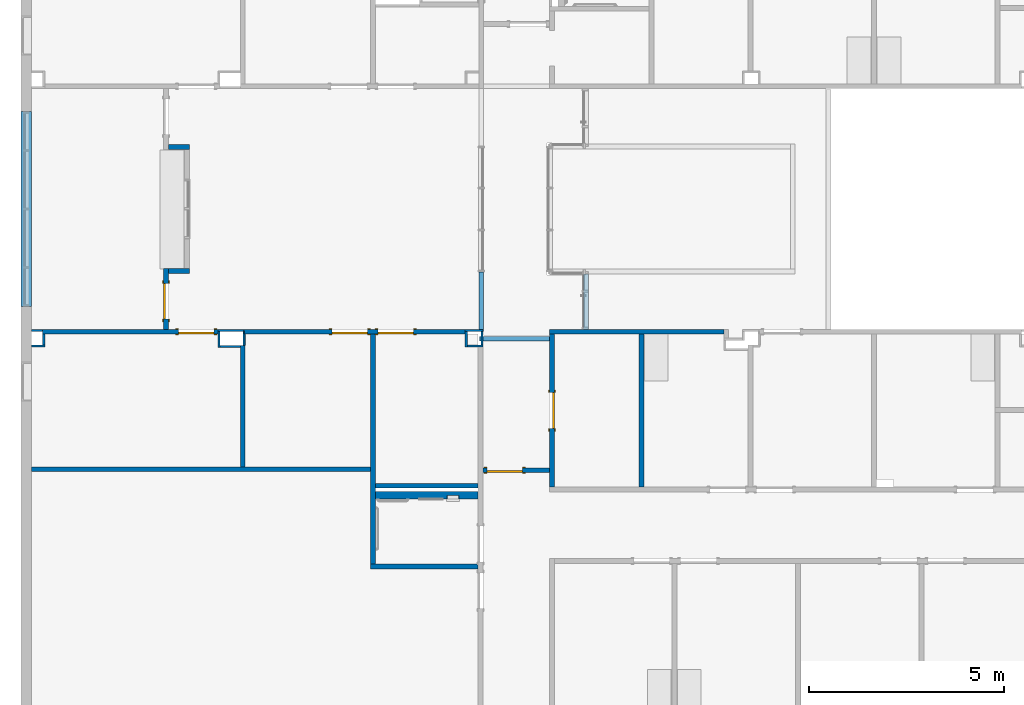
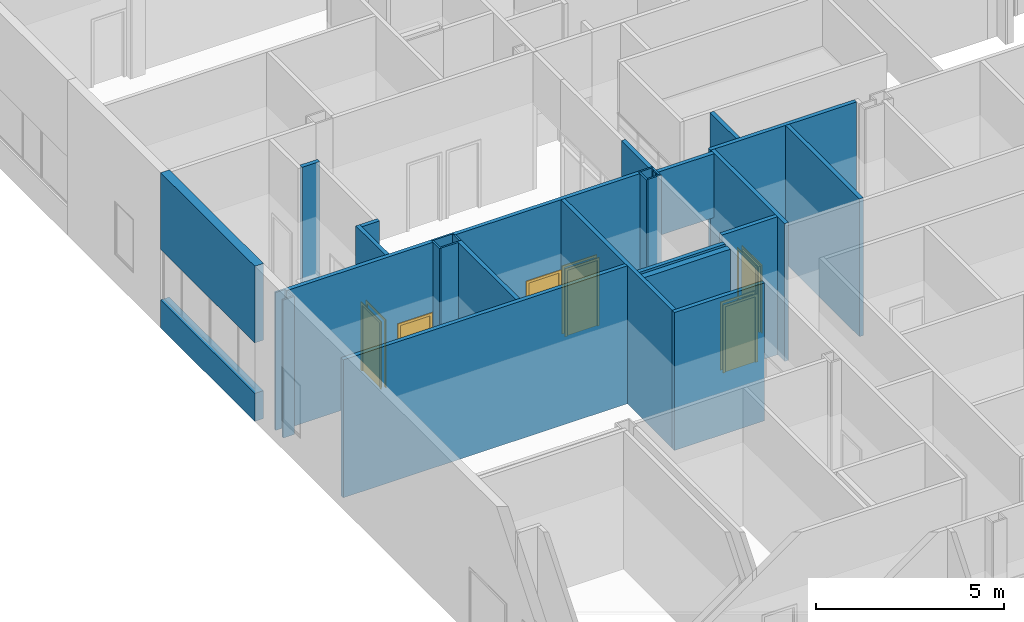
# One storey, part 26 of 87: 31 walls, 6 doors, 7 openings.
"""IFC2X3 building model written with IfcOpenShell, lengths in metres."""

from ifc_helpers import new_model, entity, si_unit, converted_unit, frame, frame_2d, origin, origin_2d_with_axis, place, context, project, spatial, polyline, rectangle, outline, extrude, source, transform, mapped, material, layer, layer_set, layer_usage, type_object, type_shapes, element, fill, save


model = new_model("IFC2X3")

# Units and contexts
model_context = context("Model", 3, precision=1e-09, world=origin())
plan_context = context("Plan", 3, precision=1e-09, world=origin())
ifc_project = project(units=[si_unit("LENGTHUNIT", "METRE"), si_unit("AREAUNIT", "SQUARE_METRE"), si_unit("VOLUMEUNIT", "CUBIC_METRE"), converted_unit("PLANEANGLEUNIT", "DEGREE", entity("IfcRatioMeasure", 0.01745329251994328), si_unit("PLANEANGLEUNIT", "RADIAN"), dimensions=[0, 0, 0, 0, 0, 0, 0]), si_unit("TIMEUNIT", "SECOND")], contexts=[model_context, plan_context])

# Site, building, storey
site_placement = place(None, origin())
site = spatial("IfcSite", under=ifc_project, at=site_placement, Name="Default", CompositionType="ELEMENT")
building_placement = place(site_placement, origin())
building = spatial("IfcBuilding", under=site, at=building_placement, CompositionType="ELEMENT")
storey_placement = place(building_placement, origin())
storey = spatial("IfcBuildingStorey", under=building, at=storey_placement, Name="First Floor", CompositionType="ELEMENT", Elevation=-3.531500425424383e-13)

# Wall, opening, door
ifc_material_1 = material(Name="Plasterboard")
ifc_layer_1 = layer(ifc_material_1, 0.016)
ifc_material_2 = material(Name="Metal - Stud Layer")
ifc_layer_2 = layer(ifc_material_2, 0.092)
ifc_layer_3 = layer(ifc_material_1, 0.016)
ifc_layer_set_1 = layer_set([ifc_layer_1, ifc_layer_2, ifc_layer_3], Name="Basic Wall:Interior - Partition (92mm Stud)")
ifc_layer_usage_1 = layer_usage(ifc_layer_set_1, "AXIS2", "NEGATIVE", 0.062)
wall_1_placement = place(storey_placement, frame((-48.56300000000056, 28.6099999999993, 0.0), z_axis=(0.0, 0.0, 1.0), x_axis=(0.0, 1.0, 0.0)))
wall_1 = element("IfcWallStandardCase", 1, at=wall_1_placement, inside=storey, material=ifc_layer_usage_1, Name="Basic Wall:Interior - Partition (92mm Stud)", ObjectType="Basic Wall:Interior - Partition (92mm Stud)", context=model_context, shape_type="SweptSolid", body=[
    extrude(rectangle(XDim=1.559999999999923, YDim=0.1240000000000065, at=frame_2d((0.7799999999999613, 0.0), x_axis=(-1.0, 0.0))), origin(), (0.0, 0.0, 1.0), 4.46800000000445),
])
opening_1_placement = place(wall_1_placement, frame((0.2604999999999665, -0.06200000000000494, 0.0)))
opening_1 = element("IfcOpeningElement", 2, at=opening_1_placement, cuts=wall_1, Name="M_Single-Flush:0915 x 2134mm:0915 x 2134mm:1", ObjectType="Opening", context=model_context, shape_type="SweptSolid", body=[
    extrude(rectangle(XDim=0.9149999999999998, YDim=2.134, at=frame_2d((1.067, 0.4575000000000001), x_axis=(0.0, -1.0))), frame((0.0, 0.0, 0.0), z_axis=(0.0, 1.0, 0.0), x_axis=(0.0, 0.0, 1.0)), (0.0, 0.0, 1.0), 0.124),
])
door_style_1 = type_object("IfcDoorStyle", Name="0915 x 2134mm", ConstructionType="NOTDEFINED", OperationType="SINGLE_SWING_LEFT", ParameterTakesPrecedence=False, Sizeable=False)
shared_shape_1 = source(origin(), model_context, "Body", "SweptSolid", [
    extrude(outline(polyline([(-0.5335, -1.123999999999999), (0.5334999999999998, -1.123999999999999), (0.5334999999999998, 1.086), (0.4574999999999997, 1.086), (0.4574999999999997, -1.048000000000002), (-0.4574999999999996, -1.048000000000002), (-0.4574999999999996, 1.086), (-0.5335, 1.086), (-0.5335, -1.123999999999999)])), frame((0.4575000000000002, 0.1489999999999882, 1.086), z_axis=(0.0, -1.0, 0.0), x_axis=(-1.0, 0.0, 0.0)), (0.0, 0.0, 1.0), 0.02499999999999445),
    extrude(outline(polyline([(-1.123999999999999, -0.5334999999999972), (1.085999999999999, -0.5334999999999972), (1.085999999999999, -0.4575000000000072), (-1.048, -0.4575000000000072), (-1.048, 0.4575000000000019), (1.085999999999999, 0.4575000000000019), (1.085999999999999, 0.5335000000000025), (-1.123999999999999, 0.5335000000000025), (-1.123999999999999, -0.5334999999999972)])), frame((0.4574999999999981, 0.0, 1.085999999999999), z_axis=(0.0, -1.0, 0.0), x_axis=(0.0, 0.0, -1.0)), (0.0, 0.0, 1.0), 0.02500000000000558),
    extrude(rectangle(XDim=0.9149999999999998, YDim=0.051, at=origin_2d_with_axis()), frame((0.4575000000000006, 0.09849999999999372, 0.0)), (0.0, 0.0, 1.0), 2.133999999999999),
])
type_shapes(door_style_1, [shared_shape_1])
door_1_placement = place(opening_1_placement, origin())
door_1 = element("IfcDoor", 3, at=door_1_placement, inside=storey, type_object=door_style_1, Name="M_Single-Flush:0915 x 2134mm:0915 x 2134mm", ObjectType="0915 x 2134mm", OverallHeight=2.134, OverallWidth=0.9149999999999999, context=model_context, shape_type="MappedRepresentation", body=[
    mapped(shared_shape_1, transform((0.0, 0.0, 0.0), scale=1.0)),
])
fill(opening_1, door_1)

# Walls
ifc_layer_usage_2 = layer_usage(ifc_layer_set_1, "AXIS2", "NEGATIVE", 0.062)
wall_2_placement = place(storey_placement, frame((-48.50100000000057, 30.10799999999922, 0.0)))
element("IfcWallStandardCase", 4, at=wall_2_placement, inside=storey, material=ifc_layer_usage_2, Name="Basic Wall:Interior - Partition (92mm Stud)", ObjectType="Basic Wall:Interior - Partition (92mm Stud)", context=model_context, shape_type="SweptSolid", body=[
    extrude(rectangle(XDim=0.54000013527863, YDim=0.1239999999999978, at=frame_2d((0.270000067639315, 0.0), x_axis=(-1.0, 0.0))), origin(), (0.0, 0.0, 1.0), 4.46800000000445),
])
ifc_layer_usage_3 = layer_usage(ifc_layer_set_1, "AXIS2", "NEGATIVE", 0.062)
wall_3_placement = place(storey_placement, frame((-47.96099986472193, 33.28199999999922, 0.0), z_axis=(0.0, 0.0, 1.0), x_axis=(-1.0, 0.0, 0.0)))
element("IfcWallStandardCase", 5, at=wall_3_placement, inside=storey, material=ifc_layer_usage_3, Name="Basic Wall:Interior - Partition (92mm Stud)", ObjectType="Basic Wall:Interior - Partition (92mm Stud)", context=model_context, shape_type="SweptSolid", body=[
    extrude(rectangle(XDim=0.5400001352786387, YDim=0.1239999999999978, at=frame_2d((0.2700000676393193, 0.0), x_axis=(-1.0, 0.0))), origin(), (0.0, 0.0, 1.0), 4.46800000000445),
])

# Wall, opening, door
ifc_layer_usage_4 = layer_usage(ifc_layer_set_1, "AXIS2", "NEGATIVE", 0.062)
wall_4_placement = place(storey_placement, frame((-51.72400000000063, 28.54799999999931, 0.0)))
wall_4 = element("IfcWallStandardCase", 6, at=wall_4_placement, inside=storey, material=ifc_layer_usage_4, Name="Basic Wall:Interior - Partition (92mm Stud)", ObjectType="Basic Wall:Interior - Partition (92mm Stud)", context=model_context, shape_type="SweptSolid", body=[
    extrude(rectangle(XDim=4.494000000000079, YDim=0.1239999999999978, at=frame_2d((2.247000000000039, 0.0), x_axis=(-1.0, 0.0))), origin(), (0.0, 0.0, 1.0), 4.46800000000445),
])
opening_2_placement = place(wall_4_placement, frame((4.394000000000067, 0.06199999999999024, 0.0)))
opening_2 = element("IfcOpeningElement", 7, at=opening_2_placement, cuts=wall_4, Name="M_Single-Flush:0915 x 2134mm:0915 x 2134mm:1", ObjectType="Opening", context=model_context, shape_type="SweptSolid", body=[
    extrude(rectangle(XDim=0.9149999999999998, YDim=2.134, at=frame_2d((1.067, 0.4574999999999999), x_axis=(0.0, -1.0))), frame((0.0, 0.0, 0.0), z_axis=(0.0, -1.0, 0.0), x_axis=(0.0, 0.0, 1.0)), (0.0, 0.0, 1.0), 0.124),
])
door_2_placement = place(opening_2_placement, frame((0.0, 0.0, 0.0), z_axis=(0.0, 0.0, 1.0), x_axis=(-1.0, 0.0, 0.0)))
door_2 = element("IfcDoor", 8, at=door_2_placement, inside=storey, type_object=door_style_1, Name="M_Single-Flush:0915 x 2134mm:0915 x 2134mm", ObjectType="0915 x 2134mm", OverallHeight=2.134, OverallWidth=0.9149999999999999, context=model_context, shape_type="MappedRepresentation", body=[
    mapped(shared_shape_1, transform((0.0, 0.0, 0.0), scale=1.0)),
])
fill(opening_2, door_2)

# Walls
ifc_layer_usage_5 = layer_usage(ifc_layer_set_1, "AXIS2", "NEGATIVE", 0.062)
wall_5_placement = place(storey_placement, frame((-43.31000000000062, 25.02199999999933, 0.0), z_axis=(0.0, 0.0, 1.0), x_axis=(-1.0, 0.0, 0.0)))
element("IfcWallStandardCase", 9, at=wall_5_placement, inside=storey, material=ifc_layer_usage_5, Name="Basic Wall:Interior - Partition (92mm Stud)", ObjectType="Basic Wall:Interior - Partition (92mm Stud)", context=model_context, shape_type="SweptSolid", body=[
    extrude(rectangle(XDim=8.703000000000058, YDim=0.1239999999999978, at=frame_2d((4.351500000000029, 0.0), x_axis=(-1.0, 0.0))), origin(), (0.0, 0.0, 1.0), 4.46800000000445),
])
ifc_layer_usage_6 = layer_usage(ifc_layer_set_1, "AXIS2", "NEGATIVE", 0.062)
wall_6_placement = place(storey_placement, frame((-46.59200000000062, 28.19599999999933, 0.0), z_axis=(0.0, 0.0, 1.0), x_axis=(0.0, -1.0, 0.0)))
element("IfcWallStandardCase", 10, at=wall_6_placement, inside=storey, material=ifc_layer_usage_6, Name="Basic Wall:Interior - Partition (92mm Stud)", ObjectType="Basic Wall:Interior - Partition (92mm Stud)", context=model_context, shape_type="SweptSolid", body=[
    extrude(rectangle(XDim=3.11199999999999, YDim=0.1240000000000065, at=frame_2d((1.555999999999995, 0.0), x_axis=(-1.0, 0.0))), origin(), (0.0, 0.0, 1.0), 4.468000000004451),
])
ifc_layer_usage_7 = layer_usage(ifc_layer_set_1, "AXIS2", "NEGATIVE", 0.062)
wall_7_placement = place(storey_placement, frame((-40.55400000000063, 22.52199999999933, 0.0), z_axis=(0.0, 0.0, 1.0), x_axis=(-1.0, 0.0, 0.0)))
element("IfcWallStandardCase", 11, at=wall_7_placement, inside=storey, material=ifc_layer_usage_7, Name="Basic Wall:Interior - Partition (92mm Stud)", ObjectType="Basic Wall:Interior - Partition (92mm Stud)", context=model_context, shape_type="SweptSolid", body=[
    extrude(rectangle(XDim=2.755999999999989, YDim=0.1239999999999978, at=frame_2d((1.377999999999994, 0.0), x_axis=(-1.0, 0.0))), origin(), (0.0, 0.0, 1.0), 4.468000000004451),
])
ifc_layer_usage_8 = layer_usage(ifc_layer_set_1, "AXIS2", "NEGATIVE", 0.062)
wall_8_placement = place(storey_placement, frame((-43.24800000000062, 22.58399999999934, 0.0), z_axis=(0.0, 0.0, 1.0), x_axis=(0.0, 1.0, 0.0)))
element("IfcWallStandardCase", 12, at=wall_8_placement, inside=storey, material=ifc_layer_usage_8, Name="Basic Wall:Interior - Partition (92mm Stud)", ObjectType="Basic Wall:Interior - Partition (92mm Stud)", context=model_context, shape_type="SweptSolid", body=[
    extrude(rectangle(XDim=5.901999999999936, YDim=0.1240000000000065, at=frame_2d((2.950999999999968, 0.0), x_axis=(-1.0, 0.0))), origin(), (0.0, 0.0, 1.0), 4.468000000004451),
])
ifc_layer_usage_9 = layer_usage(ifc_layer_set_1, "AXIS2", "NEGATIVE", 0.062)
wall_9_placement = place(storey_placement, frame((-43.18600000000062, 24.5979999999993, 0.0)))
element("IfcWallStandardCase", 13, at=wall_9_placement, inside=storey, material=ifc_layer_usage_9, Name="Basic Wall:Interior - Partition (92mm Stud)", ObjectType="Basic Wall:Interior - Partition (92mm Stud)", context=model_context, shape_type="SweptSolid", body=[
    extrude(rectangle(XDim=2.631999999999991, YDim=0.1239999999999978, at=frame_2d((1.315999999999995, 0.0), x_axis=(-1.0, 0.0))), origin(), (0.0, 0.0, 1.0), 4.46800000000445),
])

# Wall, opening
ifc_layer_4 = layer(ifc_material_1, 0.016)
ifc_layer_5 = layer(ifc_material_2, 0.152)
ifc_layer_6 = layer(ifc_material_1, 0.016)
ifc_layer_set_2 = layer_set([ifc_layer_4, ifc_layer_5, ifc_layer_6], Name="Basic Wall:Interior - Plumbing (152mm Stud)")
ifc_layer_usage_10 = layer_usage(ifc_layer_set_2, "AXIS2", "NEGATIVE", 0.092)
wall_10_placement = place(storey_placement, frame((-40.55400000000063, 24.3519999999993, 0.0), z_axis=(0.0, 0.0, 1.0), x_axis=(-1.0, 0.0, 0.0)))
wall_10 = element("IfcWallStandardCase", 14, at=wall_10_placement, inside=storey, material=ifc_layer_usage_10, Name="Basic Wall:Interior - Plumbing (152mm Stud)", ObjectType="Basic Wall:Interior - Plumbing (152mm Stud)", context=model_context, shape_type="SweptSolid", body=[
    extrude(rectangle(XDim=2.631999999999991, YDim=0.1840000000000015, at=frame_2d((1.315999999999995, 0.0), x_axis=(-1.0, 0.0))), origin(), (0.0, 0.0, 1.0), 4.46800000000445),
])
opening_3_placement = place(wall_10_placement, origin())
element("IfcOpeningElement", 15, at=opening_3_placement, cuts=wall_10, ObjectType="Opening", context=model_context, shape_type="SweptSolid", body=[
    extrude(rectangle(XDim=1.362075, YDim=0.2984499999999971, at=frame_2d((0.0, 0.0), x_axis=(0.0, 1.0))), frame((0.6450999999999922, 0.003099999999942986, 1.041399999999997), z_axis=(0.0, 1.0, 0.0), x_axis=(1.0, 0.0, 0.0)), (0.0, 0.0, 1.0), 0.1524000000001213),
])

# Wall
ifc_layer_usage_11 = layer_usage(ifc_layer_set_1, "AXIS2", "NEGATIVE", 0.062)
wall_11_placement = place(storey_placement, frame((-38.72000000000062, 28.54799999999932, 0.0)))
element("IfcWallStandardCase", 16, at=wall_11_placement, inside=storey, material=ifc_layer_usage_11, Name="Basic Wall:Interior - Partition (92mm Stud)", ObjectType="Basic Wall:Interior - Partition (92mm Stud)", context=model_context, shape_type="SweptSolid", body=[
    extrude(rectangle(XDim=4.465999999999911, YDim=0.1239999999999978, at=frame_2d((2.232999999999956, 0.0), x_axis=(-1.0, 0.0))), origin(), (0.0, 0.0, 1.0), 4.46800000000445),
])

# Wall, opening, door
ifc_layer_usage_12 = layer_usage(ifc_layer_set_1, "AXIS2", "NEGATIVE", 0.062)
wall_12_placement = place(storey_placement, frame((-38.65800000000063, 24.56399999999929, 0.0), z_axis=(0.0, 0.0, 1.0), x_axis=(0.0, 1.0, 0.0)))
wall_12 = element("IfcWallStandardCase", 17, at=wall_12_placement, inside=storey, material=ifc_layer_usage_12, Name="Basic Wall:Interior - Partition (92mm Stud)", ObjectType="Basic Wall:Interior - Partition (92mm Stud)", context=model_context, shape_type="SweptSolid", body=[
    extrude(rectangle(XDim=3.922000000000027, YDim=0.1239999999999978, at=frame_2d((1.961000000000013, 0.0), x_axis=(-1.0, 0.0))), origin(), (0.0, 0.0, 1.0), 4.46800000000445),
])
opening_4_placement = place(wall_12_placement, frame((2.418500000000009, 0.06199999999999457, 0.0)))
opening_4 = element("IfcOpeningElement", 18, at=opening_4_placement, cuts=wall_12, Name="M_Single-Flush:0915 x 2134mm:0915 x 2134mm:1", ObjectType="Opening", context=model_context, shape_type="SweptSolid", body=[
    extrude(rectangle(XDim=0.9149999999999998, YDim=2.134, at=frame_2d((1.067, 0.4575), x_axis=(0.0, 1.0))), frame((0.0, 0.0, 0.0), z_axis=(0.0, -1.0, 0.0), x_axis=(0.0, 0.0, 1.0)), (0.0, 0.0, 1.0), 0.124),
])
door_style_2 = type_object("IfcDoorStyle", Name="0915 x 2134mm", ConstructionType="NOTDEFINED", OperationType="SINGLE_SWING_RIGHT", ParameterTakesPrecedence=False, Sizeable=False)
shared_shape_2 = source(origin(), model_context, "Body", "SweptSolid", [
    extrude(outline(polyline([(-0.5335, -1.123999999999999), (0.5334999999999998, -1.123999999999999), (0.5334999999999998, 1.086), (0.4574999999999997, 1.086), (0.4574999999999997, -1.048000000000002), (-0.4574999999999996, -1.048000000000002), (-0.4574999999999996, 1.086), (-0.5335, 1.086), (-0.5335, -1.123999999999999)])), frame((0.4575000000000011, 0.1239999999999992, 1.086), z_axis=(0.0, 1.0, 0.0), x_axis=(1.0, 0.0, 0.0)), (0.0, 0.0, 1.0), 0.02499999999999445),
    extrude(outline(polyline([(-1.123999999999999, -0.5334999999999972), (1.085999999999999, -0.5334999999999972), (1.085999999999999, -0.4575000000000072), (-1.048, -0.4575000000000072), (-1.048, 0.4575000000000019), (1.085999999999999, 0.4575000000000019), (1.085999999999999, 0.5335000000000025), (-1.123999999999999, 0.5335000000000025), (-1.123999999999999, -0.5334999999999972)])), frame((0.4575000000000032, -0.02500000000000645, 1.085999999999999), z_axis=(0.0, 1.0, 0.0), x_axis=(0.0, 0.0, -1.0)), (0.0, 0.0, 1.0), 0.02500000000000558),
    extrude(rectangle(XDim=0.051, YDim=0.9149999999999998, at=origin_2d_with_axis()), frame((0.4575000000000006, 0.09849999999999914, 0.0), z_axis=(0.0, 0.0, 1.0), x_axis=(0.0, 1.0, 0.0)), (0.0, 0.0, 1.0), 2.133999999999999),
])
type_shapes(door_style_2, [shared_shape_2])
door_3_placement = place(opening_4_placement, frame((0.0, 0.0, 0.0), z_axis=(0.0, 0.0, 1.0), x_axis=(-1.0, 0.0, 0.0)))
door_3 = element("IfcDoor", 19, at=door_3_placement, inside=storey, type_object=door_style_2, Name="M_Single-Flush:0915 x 2134mm:0915 x 2134mm", ObjectType="0915 x 2134mm", OverallHeight=2.134, OverallWidth=0.9149999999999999, context=model_context, shape_type="MappedRepresentation", body=[
    mapped(shared_shape_2, transform((0.0, 0.0, 0.0), scale=1.0)),
])
fill(opening_4, door_3)

# Walls
ifc_layer_usage_13 = layer_usage(ifc_layer_set_1, "AXIS2", "NEGATIVE", 0.062)
wall_13_placement = place(storey_placement, frame((-36.36800000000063, 24.56399999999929, 0.0), z_axis=(0.0, 0.0, 1.0), x_axis=(0.0, 1.0, 0.0)))
element("IfcWallStandardCase", 20, at=wall_13_placement, inside=storey, material=ifc_layer_usage_13, Name="Basic Wall:Interior - Partition (92mm Stud)", ObjectType="Basic Wall:Interior - Partition (92mm Stud)", context=model_context, shape_type="SweptSolid", body=[
    extrude(rectangle(XDim=3.922000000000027, YDim=0.1239999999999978, at=frame_2d((1.961000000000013, 0.0), x_axis=(-1.0, 0.0))), origin(), (0.0, 0.0, 1.0), 4.46800000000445),
])
ifc_material_3 = material(Name="Insulation - Insulated Panel")
ifc_layer_7 = layer(ifc_material_3, 0.042)
ifc_material_4 = material(Name="Metal - Firring")
ifc_layer_8 = layer(ifc_material_4, 0.038)
ifc_material_5 = material(Name="Wood - Sheathing - plywood")
ifc_layer_9 = layer(ifc_material_5, 0.019)
ifc_layer_10 = layer(ifc_material_2, 0.152)
ifc_layer_11 = layer(ifc_material_1, 0.016)
ifc_layer_set_3 = layer_set([ifc_layer_7, ifc_layer_8, ifc_layer_9, ifc_layer_10, ifc_layer_11], Name="Basic Wall:Exterior - Insul Panel on Mtl. Stud")
ifc_layer_usage_14 = layer_usage(ifc_layer_set_3, "AXIS2", "NEGATIVE", 0.1335)
wall_14_placement = place(storey_placement, frame((-52.14650000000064, 29.19495592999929, 0.0), z_axis=(0.0, 0.0, 1.0), x_axis=(0.0, 1.0, 0.0)))
element("IfcWallStandardCase", 21, at=wall_14_placement, inside=storey, material=ifc_layer_usage_14, Name="Basic Wall:Exterior - Insul Panel on Mtl. Stud", ObjectType="Basic Wall:Exterior - Insul Panel on Mtl. Stud", context=model_context, shape_type="SweptSolid", body=[
    extrude(rectangle(XDim=4.999999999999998, YDim=0.2670000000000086, at=frame_2d((2.499999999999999, 0.0), x_axis=(-1.0, 0.0))), origin(), (0.0, 0.0, 1.0), 0.905),
])
ifc_layer_usage_15 = layer_usage(ifc_layer_set_3, "AXIS2", "NEGATIVE", 0.1335)
wall_15_placement = place(storey_placement, frame((-52.14650000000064, 29.19495592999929, 2.54), z_axis=(0.0, 0.0, 1.0), x_axis=(0.0, 1.0, 0.0)))
element("IfcWallStandardCase", 22, at=wall_15_placement, inside=storey, material=ifc_layer_usage_15, Name="Basic Wall:Exterior - Insul Panel on Mtl. Stud", ObjectType="Basic Wall:Exterior - Insul Panel on Mtl. Stud", context=model_context, shape_type="SweptSolid", body=[
    extrude(rectangle(XDim=4.999999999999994, YDim=0.2670000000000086, at=frame_2d((2.499999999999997, 0.0), x_axis=(-1.0, 0.0))), origin(), (0.0, 0.0, 1.0), 2.48700000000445),
])
ifc_layer_usage_16 = layer_usage(ifc_layer_set_1, "AXIS2", "NEGATIVE", 0.062)
wall_16_placement = place(storey_placement, frame((-38.72000000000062, 28.3655000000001, 2.4), z_axis=(0.0, 0.0, 1.0), x_axis=(-1.0, 0.0, 0.0)))
element("IfcWallStandardCase", 23, at=wall_16_placement, inside=storey, material=ifc_layer_usage_16, Name="Basic Wall:Interior - Partition (92mm Stud)", ObjectType="Basic Wall:Interior - Partition (92mm Stud)", context=model_context, shape_type="SweptSolid", body=[
    extrude(rectangle(XDim=1.799000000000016, YDim=0.1239999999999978, at=frame_2d((0.8995000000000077, 0.0), x_axis=(-1.0, 0.0))), origin(), (0.0, 0.0, 1.0), 2.06800000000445),
])
ifc_layer_usage_17 = layer_usage(ifc_layer_set_1, "AXIS2", "NEGATIVE", 0.062)
wall_17_placement = place(storey_placement, frame((-40.47500000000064, 30.07999999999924, 2.8), z_axis=(0.0, 0.0, 1.0), x_axis=(0.0, -1.0, 0.0)))
element("IfcWallStandardCase", 24, at=wall_17_placement, inside=storey, material=ifc_layer_usage_17, Name="Basic Wall:Interior - Partition (92mm Stud)", ObjectType="Basic Wall:Interior - Partition (92mm Stud)", context=model_context, shape_type="SweptSolid", body=[
    extrude(rectangle(XDim=1.523999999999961, YDim=0.1240000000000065, at=frame_2d((0.7619999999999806, 0.0), x_axis=(-1.0, 0.0))), origin(), (0.0, 0.0, 1.0), 1.650000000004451),
])
ifc_layer_usage_18 = layer_usage(ifc_layer_set_1, "AXIS2", "NEGATIVE", 0.062)
wall_18_placement = place(storey_placement, frame((-37.79200000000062, 30.03099999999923, 2.8), z_axis=(0.0, 0.0, 1.0), x_axis=(0.0, -1.0, 0.0)))
element("IfcWallStandardCase", 25, at=wall_18_placement, inside=storey, material=ifc_layer_usage_18, Name="Basic Wall:Interior - Partition (92mm Stud)", ObjectType="Basic Wall:Interior - Partition (92mm Stud)", context=model_context, shape_type="SweptSolid", body=[
    extrude(rectangle(XDim=1.420999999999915, YDim=0.1239999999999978, at=frame_2d((0.7104999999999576, 0.0), x_axis=(-1.0, 0.0))), origin(), (0.0, 0.0, 1.0), 1.650000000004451),
])
ifc_layer_12 = layer(ifc_material_2, 0.038)
ifc_layer_13 = layer(ifc_material_1, 0.016)
ifc_layer_set_4 = layer_set([ifc_layer_12, ifc_layer_13], Name="Basic Wall:Interior - Furring (38 mm Stud)")
ifc_layer_usage_19 = layer_usage(ifc_layer_set_4, "AXIS2", "NEGATIVE", 0.027)
wall_19_placement = place(storey_placement, frame((-40.43000000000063, 28.58299999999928, 0.0), z_axis=(0.0, 0.0, 1.0), x_axis=(-1.0, 0.0, 0.0)))
element("IfcWallStandardCase", 26, at=wall_19_placement, inside=storey, material=ifc_layer_usage_19, Name="Basic Wall:Interior - Furring (38 mm Stud)", ObjectType="Basic Wall:Interior - Furring (38 mm Stud)", context=model_context, shape_type="SweptSolid", body=[
    extrude(rectangle(XDim=0.4565000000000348, YDim=0.05400000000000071, at=frame_2d((0.2282500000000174, 0.0), x_axis=(-1.0, 0.0))), origin(), (0.0, 0.0, 1.0), 4.46800000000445),
])
ifc_layer_usage_20 = layer_usage(ifc_layer_set_4, "AXIS2", "NEGATIVE", 0.027)
wall_20_placement = place(storey_placement, frame((-40.85950000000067, 28.55599999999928, 0.0), z_axis=(0.0, 0.0, 1.0), x_axis=(0.0, -1.0, 0.0)))
element("IfcWallStandardCase", 27, at=wall_20_placement, inside=storey, material=ifc_layer_usage_20, Name="Basic Wall:Interior - Furring (38 mm Stud)", ObjectType="Basic Wall:Interior - Furring (38 mm Stud)", context=model_context, shape_type="SweptSolid", body=[
    extrude(rectangle(XDim=0.405999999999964, YDim=0.05400000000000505, at=frame_2d((0.202999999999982, 0.0), x_axis=(-1.0, 0.0))), origin(), (0.0, 0.0, 1.0), 4.46800000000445),
])
ifc_layer_usage_21 = layer_usage(ifc_layer_set_4, "AXIS2", "NEGATIVE", 0.027)
wall_21_placement = place(storey_placement, frame((-40.83250000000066, 28.17699999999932, 0.0)))
element("IfcWallStandardCase", 28, at=wall_21_placement, inside=storey, material=ifc_layer_usage_21, Name="Basic Wall:Interior - Furring (38 mm Stud)", ObjectType="Basic Wall:Interior - Furring (38 mm Stud)", context=model_context, shape_type="SweptSolid", body=[
    extrude(rectangle(XDim=0.4025000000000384, YDim=0.05399999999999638, at=frame_2d((0.2012500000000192, 0.0), x_axis=(-1.0, 0.0))), origin(), (0.0, 0.0, 1.0), 4.46800000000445),
])
ifc_layer_usage_22 = layer_usage(ifc_layer_set_4, "AXIS2", "NEGATIVE", 0.027)
wall_22_placement = place(storey_placement, frame((-40.45700000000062, 28.20399999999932, 0.0), z_axis=(0.0, 0.0, 1.0), x_axis=(0.0, 1.0, 0.0)))
element("IfcWallStandardCase", 29, at=wall_22_placement, inside=storey, material=ifc_layer_usage_22, Name="Basic Wall:Interior - Furring (38 mm Stud)", ObjectType="Basic Wall:Interior - Furring (38 mm Stud)", context=model_context, shape_type="SweptSolid", body=[
    extrude(rectangle(XDim=0.3519999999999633, YDim=0.05400000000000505, at=frame_2d((0.1759999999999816, 0.0), x_axis=(-1.0, 0.0))), origin(), (0.0, 0.0, 1.0), 4.46800000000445),
])

# Wall, openings, doors
ifc_layer_usage_23 = layer_usage(ifc_layer_set_1, "AXIS2", "NEGATIVE", 0.062)
wall_23_placement = place(storey_placement, frame((-46.55700000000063, 28.54799999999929, 0.0)))
wall_23 = element("IfcWallStandardCase", 30, at=wall_23_placement, inside=storey, material=ifc_layer_usage_23, Name="Basic Wall:Interior - Partition (92mm Stud)", ObjectType="Basic Wall:Interior - Partition (92mm Stud)", context=model_context, shape_type="SweptSolid", body=[
    extrude(rectangle(XDim=5.670499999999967, YDim=0.1239999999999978, at=frame_2d((2.835249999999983, 0.0), x_axis=(-1.0, 0.0))), origin(), (0.0, 0.0, 1.0), 4.468000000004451),
])
opening_5_placement = place(wall_23_placement, frame((3.167000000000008, 0.06199999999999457, 0.0)))
opening_5 = element("IfcOpeningElement", 31, at=opening_5_placement, cuts=wall_23, Name=":1", ObjectType="Opening", context=model_context, shape_type="SweptSolid", body=[
    extrude(rectangle(XDim=0.9149999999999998, YDim=2.134, at=frame_2d((1.067, 0.4574999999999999), x_axis=(0.0, -1.0))), frame((0.0, 0.0, 0.0), z_axis=(0.0, -1.0, 0.0), x_axis=(0.0, 0.0, 1.0)), (0.0, 0.0, 1.0), 0.124),
])
opening_6_placement = place(wall_23_placement, frame((4.346000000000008, 0.06199999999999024, 0.0)))
opening_6 = element("IfcOpeningElement", 32, at=opening_6_placement, cuts=wall_23, Name=":1", ObjectType="Opening", context=model_context, shape_type="SweptSolid", body=[
    extrude(rectangle(XDim=0.9149999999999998, YDim=2.134, at=frame_2d((1.067, 0.4575), x_axis=(0.0, 1.0))), frame((0.0, 0.0, 0.0), z_axis=(0.0, -1.0, 0.0), x_axis=(0.0, 0.0, 1.0)), (0.0, 0.0, 1.0), 0.124),
])
door_4_placement = place(opening_6_placement, frame((0.0, 0.0, 0.0), z_axis=(0.0, 0.0, 1.0), x_axis=(-1.0, 0.0, 0.0)))
door_4 = element("IfcDoor", 33, at=door_4_placement, inside=storey, type_object=door_style_2, Name="M_Single-Flush:0915 x 2134mm:0915 x 2134mm", ObjectType="0915 x 2134mm", OverallHeight=2.134, OverallWidth=0.9149999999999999, context=model_context, shape_type="MappedRepresentation", body=[
    mapped(shared_shape_2, transform((0.0, 0.0, 0.0), scale=1.0)),
])
fill(opening_6, door_4)
door_5_placement = place(opening_5_placement, frame((0.0, 0.0, 0.0), z_axis=(0.0, 0.0, 1.0), x_axis=(-1.0, 0.0, 0.0)))
door_5 = element("IfcDoor", 34, at=door_5_placement, inside=storey, type_object=door_style_1, Name="M_Single-Flush:0915 x 2134mm:0915 x 2134mm", ObjectType="0915 x 2134mm", OverallHeight=2.134, OverallWidth=0.9149999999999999, context=model_context, shape_type="MappedRepresentation", body=[
    mapped(shared_shape_1, transform((0.0, 0.0, 0.0), scale=1.0)),
])
fill(opening_5, door_5)

# Walls
ifc_layer_usage_24 = layer_usage(ifc_layer_set_4, "AXIS2", "NEGATIVE", 0.027)
wall_24_placement = place(storey_placement, frame((-46.55700000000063, 28.5829999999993, 0.0), z_axis=(0.0, 0.0, 1.0), x_axis=(-1.0, 0.0, 0.0)))
element("IfcWallStandardCase", 35, at=wall_24_placement, inside=storey, material=ifc_layer_usage_24, Name="Basic Wall:Interior - Furring (38 mm Stud)", ObjectType="Basic Wall:Interior - Furring (38 mm Stud)", context=model_context, shape_type="SweptSolid", body=[
    extrude(rectangle(XDim=0.6729999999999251, YDim=0.05399999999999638, at=frame_2d((0.3364999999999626, 0.0), x_axis=(-1.0, 0.0))), origin(), (0.0, 0.0, 1.0), 4.468000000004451),
])
ifc_layer_usage_25 = layer_usage(ifc_layer_set_4, "AXIS2", "NEGATIVE", 0.027)
wall_25_placement = place(storey_placement, frame((-47.20300000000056, 28.5559999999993, 0.0), z_axis=(0.0, 0.0, 1.0), x_axis=(0.0, -1.0, 0.0)))
element("IfcWallStandardCase", 36, at=wall_25_placement, inside=storey, material=ifc_layer_usage_25, Name="Basic Wall:Interior - Furring (38 mm Stud)", ObjectType="Basic Wall:Interior - Furring (38 mm Stud)", context=model_context, shape_type="SweptSolid", body=[
    extrude(rectangle(XDim=0.4139999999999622, YDim=0.05400000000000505, at=frame_2d((0.2069999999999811, 0.0), x_axis=(-1.0, 0.0))), origin(), (0.0, 0.0, 1.0), 4.46800000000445),
])
ifc_layer_usage_26 = layer_usage(ifc_layer_set_4, "AXIS2", "NEGATIVE", 0.027)
wall_26_placement = place(storey_placement, frame((-47.17600000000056, 28.16899999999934, 0.0)))
element("IfcWallStandardCase", 37, at=wall_26_placement, inside=storey, material=ifc_layer_usage_26, Name="Basic Wall:Interior - Furring (38 mm Stud)", ObjectType="Basic Wall:Interior - Furring (38 mm Stud)", context=model_context, shape_type="SweptSolid", body=[
    extrude(rectangle(XDim=0.5219999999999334, YDim=0.05399999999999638, at=frame_2d((0.2609999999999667, 0.0), x_axis=(-1.0, 0.0))), origin(), (0.0, 0.0, 1.0), 4.46800000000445),
])
ifc_layer_usage_27 = layer_usage(ifc_layer_set_4, "AXIS2", "NEGATIVE", 0.027)
wall_27_placement = place(storey_placement, frame((-46.55700000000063, 28.19599999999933, 0.0), z_axis=(0.0, 0.0, 1.0), x_axis=(0.0, 1.0, 0.0)))
element("IfcWallStandardCase", 38, at=wall_27_placement, inside=storey, material=ifc_layer_usage_27, Name="Basic Wall:Interior - Furring (38 mm Stud)", ObjectType="Basic Wall:Interior - Furring (38 mm Stud)", context=model_context, shape_type="SweptSolid", body=[
    extrude(outline(polyline([(0.2899999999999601, -0.02699999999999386), (0.2899999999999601, 0.0), (0.3599999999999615, 0.0), (0.3599999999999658, 0.02700000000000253), (0.0, 0.02700000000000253), (0.0, -0.02699999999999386), (0.2899999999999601, -0.02699999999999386)])), origin(), (0.0, 0.0, 1.0), 4.468000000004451),
])
ifc_layer_usage_28 = layer_usage(ifc_layer_set_4, "AXIS2", "NEGATIVE", 0.027)
wall_28_placement = place(storey_placement, frame((-52.01300000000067, 28.17699999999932, 0.0)))
element("IfcWallStandardCase", 39, at=wall_28_placement, inside=storey, material=ifc_layer_usage_28, Name="Basic Wall:Interior - Furring (38 mm Stud)", ObjectType="Basic Wall:Interior - Furring (38 mm Stud)", context=model_context, shape_type="SweptSolid", body=[
    extrude(rectangle(XDim=0.3430000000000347, YDim=0.05399999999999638, at=frame_2d((0.1715000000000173, 0.0), x_axis=(-1.0, 0.0))), origin(), (0.0, 0.0, 1.0), 4.46800000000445),
])
ifc_layer_usage_29 = layer_usage(ifc_layer_set_4, "AXIS2", "NEGATIVE", 0.027)
wall_29_placement = place(storey_placement, frame((-51.69700000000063, 28.20399999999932, 0.0), z_axis=(0.0, 0.0, 1.0), x_axis=(0.0, 1.0, 0.0)))
element("IfcWallStandardCase", 40, at=wall_29_placement, inside=storey, material=ifc_layer_usage_29, Name="Basic Wall:Interior - Furring (38 mm Stud)", ObjectType="Basic Wall:Interior - Furring (38 mm Stud)", context=model_context, shape_type="SweptSolid", body=[
    extrude(rectangle(XDim=0.2819999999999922, YDim=0.05400000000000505, at=frame_2d((0.1409999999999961, 0.0), x_axis=(-1.0, 0.0))), origin(), (0.0, 0.0, 1.0), 4.46800000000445),
])
ifc_layer_usage_30 = layer_usage(ifc_layer_set_4, "AXIS2", "NEGATIVE", 0.027)
wall_30_placement = place(storey_placement, frame((-51.72400000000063, 28.58299999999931, 0.0), z_axis=(0.0, 0.0, 1.0), x_axis=(-1.0, 0.0, 0.0)))
element("IfcWallStandardCase", 41, at=wall_30_placement, inside=storey, material=ifc_layer_usage_30, Name="Basic Wall:Interior - Furring (38 mm Stud)", ObjectType="Basic Wall:Interior - Furring (38 mm Stud)", context=model_context, shape_type="SweptSolid", body=[
    extrude(rectangle(XDim=0.2890000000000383, YDim=0.05399999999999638, at=frame_2d((0.1445000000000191, 0.0), x_axis=(-1.0, 0.0))), origin(), (0.0, 0.0, 1.0), 4.46800000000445),
])

# Wall, opening, door
ifc_layer_usage_31 = layer_usage(ifc_layer_set_1, "AXIS2", "NEGATIVE", 0.062)
wall_31_placement = place(storey_placement, frame((-40.43000000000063, 24.99639999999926, 0.0)))
wall_31 = element("IfcWallStandardCase", 42, at=wall_31_placement, inside=storey, material=ifc_layer_usage_31, Name="Basic Wall:Interior - Partition (92mm Stud)", ObjectType="Basic Wall:Interior - Partition (92mm Stud)", context=model_context, shape_type="SweptSolid", body=[
    extrude(rectangle(XDim=1.71000000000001, YDim=0.1239999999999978, at=frame_2d((0.8550000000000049, 0.0), x_axis=(-1.0, 0.0))), origin(), (0.0, 0.0, 1.0), 4.46800000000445),
])
opening_7_placement = place(wall_31_placement, frame((1.015000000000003, 0.06200000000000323, 0.0)))
opening_7 = element("IfcOpeningElement", 43, at=opening_7_placement, cuts=wall_31, Name="M_Single-Flush:0915 x 2134mm:0915 x 2134mm:1", ObjectType="Opening", context=model_context, shape_type="SweptSolid", body=[
    extrude(rectangle(XDim=0.9149999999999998, YDim=2.134, at=frame_2d((1.067, 0.4575), x_axis=(0.0, 1.0))), frame((0.0, 0.0, 0.0), z_axis=(0.0, -1.0, 0.0), x_axis=(0.0, 0.0, 1.0)), (0.0, 0.0, 1.0), 0.124),
])
door_6_placement = place(opening_7_placement, frame((0.0, 0.0, 0.0), z_axis=(0.0, 0.0, 1.0), x_axis=(-1.0, 0.0, 0.0)))
door_6 = element("IfcDoor", 44, at=door_6_placement, inside=storey, type_object=door_style_2, Name="M_Single-Flush:0915 x 2134mm:0915 x 2134mm", ObjectType="0915 x 2134mm", OverallHeight=2.134, OverallWidth=0.9149999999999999, context=model_context, shape_type="MappedRepresentation", body=[
    mapped(shared_shape_2, transform((0.0, 0.0, 0.0), scale=1.0)),
])
fill(opening_7, door_6)

save(model, "model.ifc")
